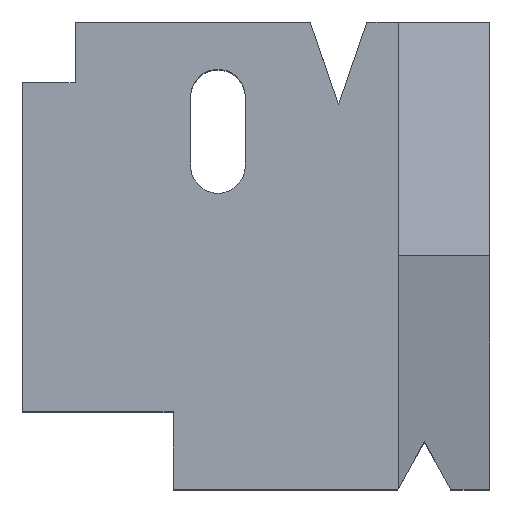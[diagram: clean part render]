
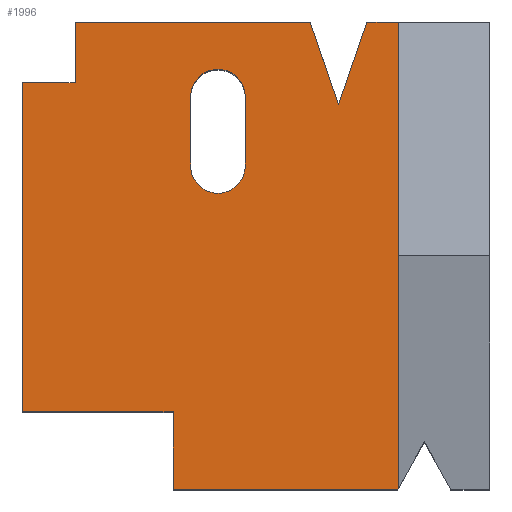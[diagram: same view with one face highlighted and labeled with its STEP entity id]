
A CAD part, top view. The second image highlights one B-rep face of the part: STEP entity #1996.
In plain terms, the highlighted planar face has unit normal (0, 0, 1).
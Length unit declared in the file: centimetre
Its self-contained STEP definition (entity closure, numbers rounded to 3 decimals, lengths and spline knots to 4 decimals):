
#51 = DIRECTION ( 'NONE',  ( 0., -1., 0. ) ) ;
#130 = EDGE_CURVE ( 'NONE', #2133, #2572, #2581, .T. ) ;
#183 = VECTOR ( 'NONE', #1812, 100. ) ;
#192 = DIRECTION ( 'NONE',  ( -1., 0., 0. ) ) ;
#230 = LINE ( 'NONE', #1071, #2218 ) ;
#257 = ORIENTED_EDGE ( 'NONE', *, *, #1547, .F. ) ;
#264 = VECTOR ( 'NONE', #2528, 100. ) ;
#270 = EDGE_CURVE ( 'NONE', #834, #2418, #995, .T. ) ;
#305 = EDGE_CURVE ( 'NONE', #1600, #1418, #2658, .T. ) ;
#319 = EDGE_LOOP ( 'NONE', ( #1795, #2191, #1313, #257, #1514, #2602, #650, #647, #1457, #748, #369, #962 ) ) ;
#353 = CARTESIAN_POINT ( 'NONE',  ( 360.0471, 840.2599, 1000. ) ) ;
#359 = CARTESIAN_POINT ( 'NONE',  ( 616.0751, 1000., 1000. ) ) ;
#369 = ORIENTED_EDGE ( 'NONE', *, *, #1881, .F. ) ;
#385 = ORIENTED_EDGE ( 'NONE', *, *, #1436, .T. ) ;
#421 = EDGE_CURVE ( 'NONE', #2380, #1830, #1464, .T. ) ;
#430 = LINE ( 'NONE', #1046, #1262 ) ;
#440 = VECTOR ( 'NONE', #884, 100. ) ;
#444 = AXIS2_PLACEMENT_3D ( 'NONE', #1992, #2615, #769 ) ;
#448 = CARTESIAN_POINT ( 'NONE',  ( 112.7138, 870.2608, 1000. ) ) ;
#467 = CARTESIAN_POINT ( 'NONE',  ( 0., 1000., 1000. ) ) ;
#489 = VECTOR ( 'NONE', #1462, 100. ) ;
#501 = VERTEX_POINT ( 'NONE', #1266 ) ;
#531 = ORIENTED_EDGE ( 'NONE', *, *, #1551, .T. ) ;
#551 = DIRECTION ( 'NONE',  ( -1., 0., 0. ) ) ;
#580 = LINE ( 'NONE', #1626, #1140 ) ;
#589 = VECTOR ( 'NONE', #2104, 100. ) ;
#590 = DIRECTION ( 'NONE',  ( 0., -1., 0. ) ) ;
#614 = CARTESIAN_POINT ( 'NONE',  ( 0., 1000., 1000. ) ) ;
#621 = DIRECTION ( 'NONE',  ( 0., 1., 0. ) ) ;
#626 = LINE ( 'NONE', #2493, #489 ) ;
#628 = VERTEX_POINT ( 'NONE', #2655 ) ;
#647 = ORIENTED_EDGE ( 'NONE', *, *, #1037, .F. ) ;
#650 = ORIENTED_EDGE ( 'NONE', *, *, #1595, .F. ) ;
#660 = CIRCLE ( 'NONE', #1397, 58.4653 ) ;
#675 = CARTESIAN_POINT ( 'NONE',  ( 737.1403, 1000., 1000. ) ) ;
#732 = CARTESIAN_POINT ( 'NONE',  ( 803.8513, 0., 1000. ) ) ;
#748 = ORIENTED_EDGE ( 'NONE', *, *, #130, .F. ) ;
#769 = DIRECTION ( 'NONE',  ( 1., 0., 0. ) ) ;
#781 = DIRECTION ( 'NONE',  ( 0.323, -0.946, 0. ) ) ;
#795 = CARTESIAN_POINT ( 'NONE',  ( 0., 870.2608, 1000. ) ) ;
#806 = CARTESIAN_POINT ( 'NONE',  ( 322.4268, 0., 1000. ) ) ;
#834 = VERTEX_POINT ( 'NONE', #1806 ) ;
#884 = DIRECTION ( 'NONE',  ( 0., 1., 0. ) ) ;
#896 = ORIENTED_EDGE ( 'NONE', *, *, #305, .T. ) ;
#932 = VECTOR ( 'NONE', #2279, 100. ) ;
#951 = PLANE ( 'NONE',  #444 ) ;
#952 = CARTESIAN_POINT ( 'NONE',  ( 803.8513, 0., 1000. ) ) ;
#962 = ORIENTED_EDGE ( 'NONE', *, *, #1945, .T. ) ;
#995 = LINE ( 'NONE', #1827, #183 ) ;
#1037 = EDGE_CURVE ( 'NONE', #2410, #628, #430, .T. ) ;
#1046 = CARTESIAN_POINT ( 'NONE',  ( 322.4268, 0., 1000. ) ) ;
#1049 = CARTESIAN_POINT ( 'NONE',  ( 418.5124, 691.7353, 1000. ) ) ;
#1071 = CARTESIAN_POINT ( 'NONE',  ( 0., 0., 1000. ) ) ;
#1080 = LINE ( 'NONE', #1671, #2648 ) ;
#1093 = CARTESIAN_POINT ( 'NONE',  ( 676.6077, 822.8271, 1000. ) ) ;
#1137 = VECTOR ( 'NONE', #781, 100. ) ;
#1140 = VECTOR ( 'NONE', #551, 100. ) ;
#1186 = FACE_BOUND ( 'NONE', #1432, .T. ) ;
#1230 = LINE ( 'NONE', #795, #1733 ) ;
#1262 = VECTOR ( 'NONE', #621, 100. ) ;
#1266 = CARTESIAN_POINT ( 'NONE',  ( 0., 165.5492, 1000. ) ) ;
#1309 = EDGE_CURVE ( 'NONE', #834, #2380, #1813, .T. ) ;
#1313 = ORIENTED_EDGE ( 'NONE', *, *, #270, .T. ) ;
#1337 = CARTESIAN_POINT ( 'NONE',  ( 360.0471, 691.7353, 1000. ) ) ;
#1397 = AXIS2_PLACEMENT_3D ( 'NONE', #2319, #1838, #2010 ) ;
#1418 = VERTEX_POINT ( 'NONE', #2156 ) ;
#1432 = EDGE_LOOP ( 'NONE', ( #385, #1545, #531, #896 ) ) ;
#1436 = EDGE_CURVE ( 'NONE', #1418, #2551, #1524, .T. ) ;
#1457 = ORIENTED_EDGE ( 'NONE', *, *, #2118, .T. ) ;
#1462 = DIRECTION ( 'NONE',  ( 0., 1., 0. ) ) ;
#1464 = LINE ( 'NONE', #1093, #589 ) ;
#1514 = ORIENTED_EDGE ( 'NONE', *, *, #1744, .F. ) ;
#1524 = CIRCLE ( 'NONE', #2253, 58.4653 ) ;
#1545 = ORIENTED_EDGE ( 'NONE', *, *, #1794, .T. ) ;
#1547 = EDGE_CURVE ( 'NONE', #2080, #2418, #626, .T. ) ;
#1551 = EDGE_CURVE ( 'NONE', #2008, #1600, #660, .T. ) ;
#1595 = EDGE_CURVE ( 'NONE', #628, #501, #580, .T. ) ;
#1600 = VERTEX_POINT ( 'NONE', #1997 ) ;
#1626 = CARTESIAN_POINT ( 'NONE',  ( 322.4268, 165.5492, 1000. ) ) ;
#1669 = VERTEX_POINT ( 'NONE', #2226 ) ;
#1671 = CARTESIAN_POINT ( 'NONE',  ( 804.9018, 0., 1000. ) ) ;
#1683 = CARTESIAN_POINT ( 'NONE',  ( 360.0471, 691.7353, 1000. ) ) ;
#1733 = VECTOR ( 'NONE', #2660, 100. ) ;
#1738 = CARTESIAN_POINT ( 'NONE',  ( 804.9018, 1.9003, 1000. ) ) ;
#1744 = EDGE_CURVE ( 'NONE', #1669, #2080, #1230, .T. ) ;
#1776 = VECTOR ( 'NONE', #1872, 100. ) ;
#1794 = EDGE_CURVE ( 'NONE', #2551, #2008, #2496, .T. ) ;
#1795 = ORIENTED_EDGE ( 'NONE', *, *, #421, .F. ) ;
#1806 = CARTESIAN_POINT ( 'NONE',  ( 616.0751, 1000., 1000. ) ) ;
#1812 = DIRECTION ( 'NONE',  ( -1., 0., 0. ) ) ;
#1813 = LINE ( 'NONE', #359, #1137 ) ;
#1825 = EDGE_CURVE ( 'NONE', #1669, #501, #2308, .T. ) ;
#1827 = CARTESIAN_POINT ( 'NONE',  ( 0., 1000., 1000. ) ) ;
#1830 = VERTEX_POINT ( 'NONE', #675 ) ;
#1838 = DIRECTION ( 'NONE',  ( 0., 0., -1. ) ) ;
#1841 = CARTESIAN_POINT ( 'NONE',  ( 476.9776, 840.2599, 1000. ) ) ;
#1872 = DIRECTION ( 'NONE',  ( 0., -1., 0. ) ) ;
#1881 = EDGE_CURVE ( 'NONE', #2035, #2133, #1080, .T. ) ;
#1945 = EDGE_CURVE ( 'NONE', #2035, #1830, #2466, .T. ) ;
#1992 = CARTESIAN_POINT ( 'NONE',  ( 0., 0., 1000. ) ) ;
#1996 = ADVANCED_FACE ( 'NONE', ( #2604, #1186 ), #951, .T. ) ;
#1997 = CARTESIAN_POINT ( 'NONE',  ( 476.9776, 840.2599, 1000. ) ) ;
#2008 = VERTEX_POINT ( 'NONE', #353 ) ;
#2010 = DIRECTION ( 'NONE',  ( -1., 0., 0. ) ) ;
#2035 = VERTEX_POINT ( 'NONE', #2341 ) ;
#2080 = VERTEX_POINT ( 'NONE', #448 ) ;
#2104 = DIRECTION ( 'NONE',  ( 0.323, 0.946, 0. ) ) ;
#2110 = DIRECTION ( 'NONE',  ( 1., 0., 0. ) ) ;
#2118 = EDGE_CURVE ( 'NONE', #2410, #2572, #230, .T. ) ;
#2133 = VERTEX_POINT ( 'NONE', #1738 ) ;
#2156 = CARTESIAN_POINT ( 'NONE',  ( 476.9776, 691.7353, 1000. ) ) ;
#2191 = ORIENTED_EDGE ( 'NONE', *, *, #1309, .F. ) ;
#2218 = VECTOR ( 'NONE', #2110, 100. ) ;
#2226 = CARTESIAN_POINT ( 'NONE',  ( 0., 870.2608, 1000. ) ) ;
#2230 = VECTOR ( 'NONE', #590, 100. ) ;
#2240 = CARTESIAN_POINT ( 'NONE',  ( 676.6077, 822.8271, 1000. ) ) ;
#2253 = AXIS2_PLACEMENT_3D ( 'NONE', #1049, #2670, #192 ) ;
#2279 = DIRECTION ( 'NONE',  ( -0.484, -0.875, 0. ) ) ;
#2308 = LINE ( 'NONE', #467, #1776 ) ;
#2319 = CARTESIAN_POINT ( 'NONE',  ( 418.5124, 840.2599, 1000. ) ) ;
#2341 = CARTESIAN_POINT ( 'NONE',  ( 804.9018, 1000., 1000. ) ) ;
#2380 = VERTEX_POINT ( 'NONE', #2240 ) ;
#2410 = VERTEX_POINT ( 'NONE', #806 ) ;
#2418 = VERTEX_POINT ( 'NONE', #2454 ) ;
#2454 = CARTESIAN_POINT ( 'NONE',  ( 112.7138, 1000., 1000. ) ) ;
#2466 = LINE ( 'NONE', #614, #264 ) ;
#2493 = CARTESIAN_POINT ( 'NONE',  ( 112.7138, 870.2608, 1000. ) ) ;
#2496 = LINE ( 'NONE', #1683, #440 ) ;
#2528 = DIRECTION ( 'NONE',  ( -1., 0., 0. ) ) ;
#2551 = VERTEX_POINT ( 'NONE', #1337 ) ;
#2572 = VERTEX_POINT ( 'NONE', #952 ) ;
#2581 = LINE ( 'NONE', #732, #932 ) ;
#2602 = ORIENTED_EDGE ( 'NONE', *, *, #1825, .T. ) ;
#2604 = FACE_OUTER_BOUND ( 'NONE', #319, .T. ) ;
#2615 = DIRECTION ( 'NONE',  ( 0., 0., 1. ) ) ;
#2648 = VECTOR ( 'NONE', #51, 100. ) ;
#2655 = CARTESIAN_POINT ( 'NONE',  ( 322.4268, 165.5492, 1000. ) ) ;
#2658 = LINE ( 'NONE', #1841, #2230 ) ;
#2660 = DIRECTION ( 'NONE',  ( 1., 0., 0. ) ) ;
#2670 = DIRECTION ( 'NONE',  ( 0., 0., -1. ) ) ;
